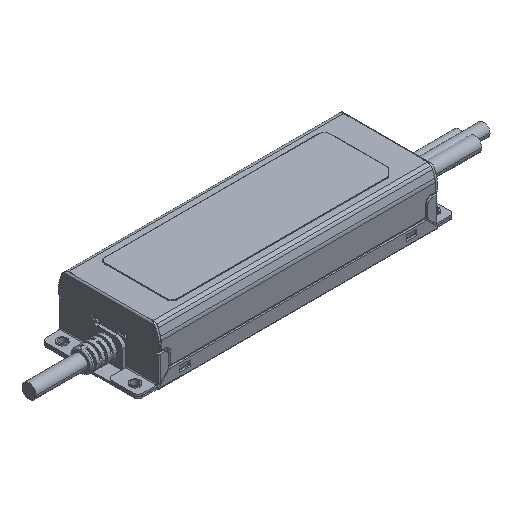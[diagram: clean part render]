
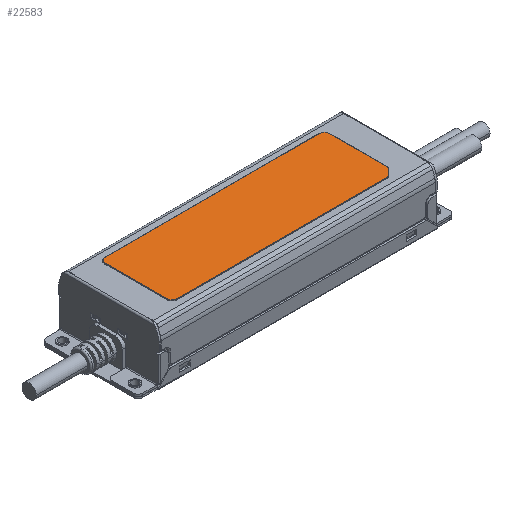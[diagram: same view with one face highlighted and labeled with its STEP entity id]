
A CAD part, isometric view. The second image highlights one B-rep face of the part: STEP entity #22583.
In plain terms, the highlighted planar face has unit normal (0, 0, 1).
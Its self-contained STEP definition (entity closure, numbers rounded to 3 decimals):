
#14348=CARTESIAN_POINT('',(24.555,18.048,34.3));
#14349=DIRECTION('',(0.,0.,1.));
#14350=DIRECTION('',(-1.,0.,0.));
#14351=AXIS2_PLACEMENT_3D('',#14348,#14349,#14350);
#14356=CARTESIAN_POINT('',(24.555,56.548,34.3));
#14357=DIRECTION('',(0.,0.,1.));
#14358=DIRECTION('',(0.,1.,0.));
#14359=AXIS2_PLACEMENT_3D('',#14356,#14357,#14358);
#14364=CARTESIAN_POINT('',(159.055,56.548,34.3));
#14365=DIRECTION('',(0.,0.,1.));
#14366=DIRECTION('',(1.,0.,0.));
#14367=AXIS2_PLACEMENT_3D('',#14364,#14365,#14366);
#14372=DIRECTION('',(0.707,0.707,0.));
#14373=VECTOR('',#14372,6.905);
#14374=CARTESIAN_POINT('',(157.472,14.748,34.3));
#14375=LINE('',#14374,#14373);
#14379=DIRECTION('',(-1.,0.,0.));
#14380=VECTOR('',#14379,132.917);
#14381=CARTESIAN_POINT('',(157.472,14.748,34.3));
#14382=LINE('',#14381,#14380);
#14438=DIRECTION('',(0.,1.,0.));
#14439=VECTOR('',#14438,38.5);
#14440=CARTESIAN_POINT('',(21.255,18.048,34.3));
#14441=LINE('',#14440,#14439);
#14535=DIRECTION('',(0.,-1.,0.));
#14536=VECTOR('',#14535,36.917);
#14537=CARTESIAN_POINT('',(162.355,56.548,34.3));
#14538=LINE('',#14537,#14536);
#14594=DIRECTION('',(1.,0.,0.));
#14595=VECTOR('',#14594,134.5);
#14596=CARTESIAN_POINT('',(24.555,59.848,34.3));
#14597=LINE('',#14596,#14595);
#17816=CARTESIAN_POINT('',(162.355,56.548,34.3));
#17817=VERTEX_POINT('',#17816);
#17818=CARTESIAN_POINT('',(162.355,19.631,34.3));
#17819=VERTEX_POINT('',#17818);
#17822=CARTESIAN_POINT('',(21.255,18.048,34.3));
#17823=CARTESIAN_POINT('',(24.555,14.748,34.3));
#17824=VERTEX_POINT('',#17822);
#17825=VERTEX_POINT('',#17823);
#17826=CARTESIAN_POINT('',(21.255,56.548,34.3));
#17827=VERTEX_POINT('',#17826);
#17828=CARTESIAN_POINT('',(24.555,59.848,34.3));
#17829=VERTEX_POINT('',#17828);
#17830=CARTESIAN_POINT('',(159.055,59.848,34.3));
#17831=VERTEX_POINT('',#17830);
#17832=CARTESIAN_POINT('',(157.472,14.748,34.3));
#17833=VERTEX_POINT('',#17832);
#22561=CARTESIAN_POINT('',(149.066,46.025,34.3));
#22562=DIRECTION('',(0.,0.,1.));
#22563=DIRECTION('',(1.,0.,0.));
#22564=AXIS2_PLACEMENT_3D('',#22561,#22562,#22563);
#22565=PLANE('',#22564);
#22567=ORIENTED_EDGE('',*,*,#22566,.T.);
#22569=ORIENTED_EDGE('',*,*,#22568,.F.);
#22571=ORIENTED_EDGE('',*,*,#22570,.T.);
#22573=ORIENTED_EDGE('',*,*,#22572,.F.);
#22575=ORIENTED_EDGE('',*,*,#22574,.T.);
#22577=ORIENTED_EDGE('',*,*,#22576,.F.);
#22579=ORIENTED_EDGE('',*,*,#22578,.T.);
#22580=ORIENTED_EDGE('',*,*,#22552,.F.);
#22581=EDGE_LOOP('',(#22567,#22569,#22571,#22573,#22575,#22577,#22579,#22580));
#22582=FACE_OUTER_BOUND('',#22581,.F.);
#14352=CIRCLE('',#14351,3.3);
#14360=CIRCLE('',#14359,3.3);
#14368=CIRCLE('',#14367,3.3);
#22552=EDGE_CURVE('',#17833,#17819,#14375,.T.);
#22566=EDGE_CURVE('',#17833,#17825,#14382,.T.);
#22568=EDGE_CURVE('',#17824,#17825,#14352,.T.);
#22570=EDGE_CURVE('',#17824,#17827,#14441,.T.);
#22572=EDGE_CURVE('',#17829,#17827,#14360,.T.);
#22574=EDGE_CURVE('',#17829,#17831,#14597,.T.);
#22576=EDGE_CURVE('',#17817,#17831,#14368,.T.);
#22578=EDGE_CURVE('',#17817,#17819,#14538,.T.);
#22583=ADVANCED_FACE('',(#22582),#22565,.T.);
